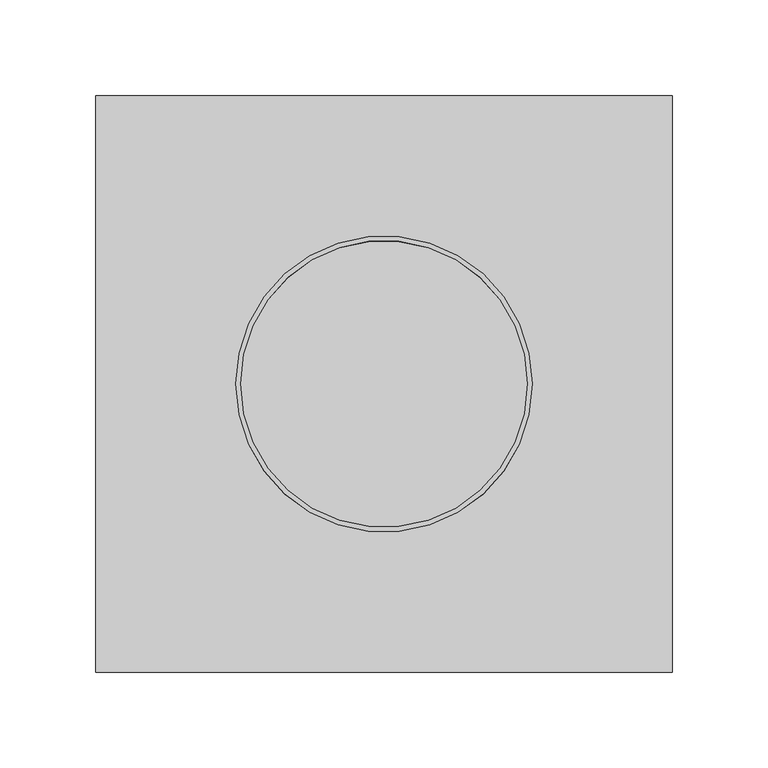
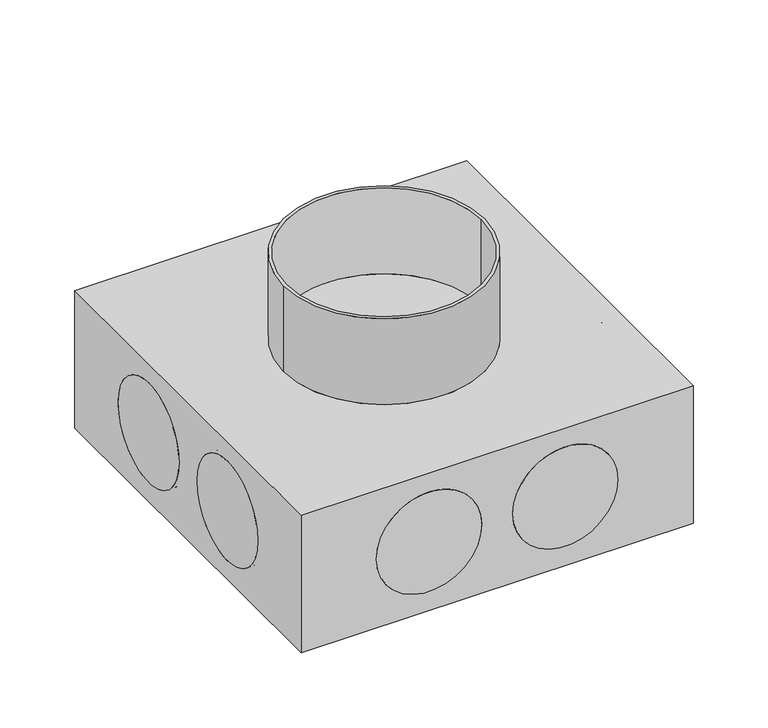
"""IFC4 building model written with IfcOpenShell, lengths in millimetres: duct fitting geometry, NLRS_57_DUF_UN_air extraction plenum square 300x300_M&G : 225#8 (H=110)."""

from ifc_helpers import new_model, si_unit, point, frame, frame_2d, origin, origin_with_axes, place, context, project, spatial, polyline, circle_curve, trimmed, segment, composite_curve, outline, extrude, source, transform, mapped, element, save
from ifc_brep_helpers import plane_surface, cylinder_surface, revolved_surface, advanced_brep


def duct_fitting_265251c9(model_context):
    return source(origin(), model_context, "Body", "SolidModel", [
        extrude(outline(composite_curve([segment(trimmed(circle_curve(frame_2d((56.0, -52.5)), 40.5), [point((56.0, -93.0))], [point((56.0, -12.0))], False, "CARTESIAN"), True, "CONTINUOUS"), segment(trimmed(circle_curve(frame_2d((56.0, -52.5)), 40.5), [point((56.0, -12.0))], [point((56.0, -93.0))], False, "CARTESIAN"), True, "CONTINUOUS")], self_intersect=False)), frame((0.0, 146.0, 0.0), z_axis=(0.0, 1.0, 0.0), x_axis=(0.0, 0.0, 1.0)), (0.0, 0.0, 1.0), 5.0),
        extrude(outline(composite_curve([segment(trimmed(circle_curve(frame_2d((56.0, 52.5)), 40.5), [point((56.0, 12.0))], [point((56.0, 93.0))], False, "CARTESIAN"), True, "CONTINUOUS"), segment(trimmed(circle_curve(frame_2d((56.0, 52.5)), 40.5), [point((56.0, 93.0))], [point((56.0, 12.0))], False, "CARTESIAN"), True, "CONTINUOUS")], self_intersect=False)), frame((0.0, 146.0, 0.0), z_axis=(0.0, 1.0, 0.0), x_axis=(0.0, 0.0, 1.0)), (0.0, 0.0, 1.0), 5.0),
        extrude(outline(composite_curve([segment(trimmed(circle_curve(frame_2d((52.5, 56.0)), 40.5), [point((12.0, 56.0))], [point((93.0, 56.0))], False, "CARTESIAN"), True, "CONTINUOUS"), segment(trimmed(circle_curve(frame_2d((52.5, 56.0)), 40.5), [point((93.0, 56.0))], [point((12.0, 56.0))], False, "CARTESIAN"), True, "CONTINUOUS")], self_intersect=False)), frame((146.0, 0.0, 0.0), z_axis=(1.0, 0.0, 0.0), x_axis=(0.0, 1.0, 0.0)), (0.0, 0.0, 1.0), 5.0),
        extrude(outline(composite_curve([segment(trimmed(circle_curve(frame_2d((-52.5, 56.0)), 40.5), [point((-93.0, 56.0))], [point((-12.0, 56.0))], False, "CARTESIAN"), True, "CONTINUOUS"), segment(trimmed(circle_curve(frame_2d((-52.5, 56.0)), 40.5), [point((-12.0, 56.0))], [point((-93.0, 56.0))], False, "CARTESIAN"), True, "CONTINUOUS")], self_intersect=False)), frame((146.0, 0.0, 0.0), z_axis=(1.0, 0.0, 0.0), x_axis=(0.0, 1.0, 0.0)), (0.0, 0.0, 1.0), 5.0),
        extrude(outline(composite_curve([segment(trimmed(circle_curve(frame_2d((56.0, -52.5)), 40.5), [point((56.0, -93.0))], [point((56.0, -12.0))], False, "CARTESIAN"), True, "CONTINUOUS"), segment(trimmed(circle_curve(frame_2d((56.0, -52.5)), 40.5), [point((56.0, -12.0))], [point((56.0, -93.0))], False, "CARTESIAN"), True, "CONTINUOUS")], self_intersect=False)), frame((0.0, -151.0, 0.0), z_axis=(0.0, 1.0, 0.0), x_axis=(0.0, 0.0, 1.0)), (0.0, 0.0, 1.0), 5.0),
        extrude(outline(composite_curve([segment(trimmed(circle_curve(frame_2d((56.0, 52.5)), 40.5), [point((56.0, 12.0))], [point((56.0, 93.0))], False, "CARTESIAN"), True, "CONTINUOUS"), segment(trimmed(circle_curve(frame_2d((56.0, 52.5)), 40.5), [point((56.0, 93.0))], [point((56.0, 12.0))], False, "CARTESIAN"), True, "CONTINUOUS")], self_intersect=False)), frame((0.0, -151.0, 0.0), z_axis=(0.0, 1.0, 0.0), x_axis=(0.0, 0.0, 1.0)), (0.0, 0.0, 1.0), 5.0),
        extrude(outline(composite_curve([segment(trimmed(circle_curve(frame_2d((52.5, 56.0)), 40.5), [point((12.0, 56.0))], [point((93.0, 56.0))], False, "CARTESIAN"), True, "CONTINUOUS"), segment(trimmed(circle_curve(frame_2d((52.5, 56.0)), 40.5), [point((93.0, 56.0))], [point((12.0, 56.0))], False, "CARTESIAN"), True, "CONTINUOUS")], self_intersect=False)), frame((-151.0, 0.0, 0.0), z_axis=(1.0, 0.0, 0.0), x_axis=(0.0, 1.0, 0.0)), (0.0, 0.0, 1.0), 5.0),
        extrude(outline(composite_curve([segment(trimmed(circle_curve(frame_2d((-52.5, 56.0)), 40.5), [point((-93.0, 56.0))], [point((-12.0, 56.0))], False, "CARTESIAN"), True, "CONTINUOUS"), segment(trimmed(circle_curve(frame_2d((-52.5, 56.0)), 40.5), [point((-12.0, 56.0))], [point((-93.0, 56.0))], False, "CARTESIAN"), True, "CONTINUOUS")], self_intersect=False)), frame((-151.0, 0.0, 0.0), z_axis=(1.0, 0.0, 0.0), x_axis=(0.0, 1.0, 0.0)), (0.0, 0.0, 1.0), 5.0),
        advanced_brep(
        [(151.0, 151.0, 112.0), (-151.0, 151.0, 112.0), (-151.0, -151.0, 112.0), (151.0, -151.0, 112.0), (-77.5, 0.0, 112.0), (77.5, 0.0, 112.0), (-75.0, 0.0, 112.0), (75.0, 0.0, 112.0), (151.0, 151.0, 0.0), (151.0, -151.0, 0.0), (-151.0, -151.0, 0.0), (-151.0, 151.0, 0.0), (-93.0, 151.0, 56.0), (-12.0, 151.0, 56.0), (12.0, 151.0, 56.0), (93.0, 151.0, 56.0), (-151.0, 93.0, 56.0), (-151.0, 12.0, 56.0), (-151.0, -12.0, 56.0), (-151.0, -93.0, 56.0), (-12.0, -151.0, 56.0), (-93.0, -151.0, 56.0), (93.0, -151.0, 56.0), (12.0, -151.0, 56.0), (151.0, 12.0, 56.0), (151.0, 93.0, 56.0), (151.0, -93.0, 56.0), (151.0, -12.0, 56.0), (-77.5, 0.0, 182.0), (77.5, 0.0, 182.0), (-75.0, 0.0, 182.0), (75.0, 0.0, 182.0), (-12.0, -145.0, 56.0), (-93.0, -145.0, 56.0), (93.0, -145.0, 56.0), (12.0, -145.0, 56.0), (-145.0, 93.0, 56.0), (-145.0, 12.0, 56.0), (-145.0, -12.0, 56.0), (-145.0, -93.0, 56.0), (145.0, 12.0, 56.0), (145.0, 93.0, 56.0), (145.0, -93.0, 56.0), (145.0, -12.0, 56.0), (-93.0, 145.0, 56.0), (-12.0, 145.0, 56.0), (12.0, 145.0, 56.0), (93.0, 145.0, 56.0)],
        [
            (0, 1),
            (1, 2),
            (2, 3),
            (3, 0),
            (4, 5, circle_curve(frame((0.0, 0.0, 112.0), z_axis=(0.0, 0.0, -1.0), x_axis=(1.0, 0.0, 0.0)), 77.5)),
            (5, 4, circle_curve(frame((0.0, 0.0, 112.0), z_axis=(0.0, 0.0, -1.0), x_axis=(1.0, 0.0, 0.0)), 77.5)),
            (6, 7, circle_curve(frame((0.0, 0.0, 112.0), z_axis=(0.0, 0.0, 1.0), x_axis=(1.0, 0.0, 0.0)), 75.0)),
            (7, 6, circle_curve(frame((0.0, 0.0, 112.0), z_axis=(0.0, 0.0, 1.0), x_axis=(1.0, 0.0, 0.0)), 75.0)),
            (8, 9),
            (9, 10),
            (10, 11),
            (11, 8),
            (0, 8),
            (11, 1),
            (12, 13, circle_curve(frame((-52.5, 151.0, 56.0), z_axis=(0.0, -1.0, 0.0), x_axis=(1.0, 0.0, 0.0)), 40.5)),
            (13, 12, circle_curve(frame((-52.5, 151.0, 56.0), z_axis=(0.0, -1.0, 0.0), x_axis=(1.0, 0.0, 0.0)), 40.5)),
            (14, 15, circle_curve(frame((52.5, 151.0, 56.0), z_axis=(0.0, -1.0, 0.0), x_axis=(1.0, 0.0, 0.0)), 40.5)),
            (15, 14, circle_curve(frame((52.5, 151.0, 56.0), z_axis=(0.0, -1.0, 0.0), x_axis=(1.0, 0.0, 0.0)), 40.5)),
            (10, 2),
            (16, 17, circle_curve(frame((-151.0, 52.5, 56.0), z_axis=(1.0, 0.0, 0.0), x_axis=(0.0, 1.0, 0.0)), 40.5)),
            (17, 16, circle_curve(frame((-151.0, 52.5, 56.0), z_axis=(1.0, 0.0, 0.0), x_axis=(0.0, 1.0, 0.0)), 40.5)),
            (18, 19, circle_curve(frame((-151.0, -52.5, 56.0), z_axis=(1.0, 0.0, 0.0), x_axis=(0.0, 1.0, 0.0)), 40.5)),
            (19, 18, circle_curve(frame((-151.0, -52.5, 56.0), z_axis=(1.0, 0.0, 0.0), x_axis=(0.0, 1.0, 0.0)), 40.5)),
            (9, 3),
            (20, 21, circle_curve(frame((-52.5, -151.0, 56.0), z_axis=(0.0, 1.0, 0.0), x_axis=(1.0, 0.0, 0.0)), 40.5)),
            (21, 20, circle_curve(frame((-52.5, -151.0, 56.0), z_axis=(0.0, 1.0, 0.0), x_axis=(1.0, 0.0, 0.0)), 40.5)),
            (22, 23, circle_curve(frame((52.5, -151.0, 56.0), z_axis=(0.0, 1.0, 0.0), x_axis=(1.0, 0.0, 0.0)), 40.5)),
            (23, 22, circle_curve(frame((52.5, -151.0, 56.0), z_axis=(0.0, 1.0, 0.0), x_axis=(1.0, 0.0, 0.0)), 40.5)),
            (24, 25, circle_curve(frame((151.0, 52.5, 56.0), z_axis=(-1.0, 0.0, 0.0), x_axis=(0.0, 1.0, 0.0)), 40.5)),
            (25, 24, circle_curve(frame((151.0, 52.5, 56.0), z_axis=(-1.0, 0.0, 0.0), x_axis=(0.0, 1.0, 0.0)), 40.5)),
            (26, 27, circle_curve(frame((151.0, -52.5, 56.0), z_axis=(-1.0, 0.0, 0.0), x_axis=(0.0, 1.0, 0.0)), 40.5)),
            (27, 26, circle_curve(frame((151.0, -52.5, 56.0), z_axis=(-1.0, 0.0, 0.0), x_axis=(0.0, 1.0, 0.0)), 40.5)),
            (28, 29, circle_curve(frame((0.0, 0.0, 182.0), z_axis=(0.0, 0.0, 1.0), x_axis=(1.0, 0.0, 0.0)), 77.5)),
            (29, 28, circle_curve(frame((0.0, 0.0, 182.0), z_axis=(0.0, 0.0, 1.0), x_axis=(1.0, 0.0, 0.0)), 77.5)),
            (30, 31, circle_curve(frame((0.0, 0.0, 182.0), z_axis=(0.0, 0.0, -1.0), x_axis=(1.0, 0.0, 0.0)), 75.0)),
            (31, 30, circle_curve(frame((0.0, 0.0, 182.0), z_axis=(0.0, 0.0, -1.0), x_axis=(1.0, 0.0, 0.0)), 75.0)),
            (31, 7),
            (6, 30),
            (29, 5),
            (4, 28),
            (32, 33, circle_curve(frame((-52.5, -145.0, 56.0), z_axis=(0.0, 1.0, 0.0), x_axis=(1.0, 0.0, 0.0)), 40.5)),
            (33, 21),
            (20, 32),
            (33, 32, circle_curve(frame((-52.5, -145.0, 56.0), z_axis=(0.0, 1.0, 0.0), x_axis=(1.0, 0.0, 0.0)), 40.5)),
            (34, 35, circle_curve(frame((52.5, -145.0, 56.0), z_axis=(0.0, 1.0, 0.0), x_axis=(1.0, 0.0, 0.0)), 40.5)),
            (35, 23),
            (22, 34),
            (35, 34, circle_curve(frame((52.5, -145.0, 56.0), z_axis=(0.0, 1.0, 0.0), x_axis=(1.0, 0.0, 0.0)), 40.5)),
            (36, 37, circle_curve(frame((-145.0, 52.5, 56.0), z_axis=(1.0, 0.0, 0.0), x_axis=(0.0, 1.0, 0.0)), 40.5)),
            (37, 17),
            (16, 36),
            (37, 36, circle_curve(frame((-145.0, 52.5, 56.0), z_axis=(1.0, 0.0, 0.0), x_axis=(0.0, 1.0, 0.0)), 40.5)),
            (38, 39, circle_curve(frame((-145.0, -52.5, 56.0), z_axis=(1.0, 0.0, 0.0), x_axis=(0.0, 1.0, 0.0)), 40.5)),
            (39, 19),
            (18, 38),
            (39, 38, circle_curve(frame((-145.0, -52.5, 56.0), z_axis=(1.0, 0.0, 0.0), x_axis=(0.0, 1.0, 0.0)), 40.5)),
            (40, 41, circle_curve(frame((145.0, 52.5, 56.0), z_axis=(1.0, 0.0, 0.0), x_axis=(0.0, 1.0, 0.0)), 40.5)),
            (41, 40, circle_curve(frame((145.0, 52.5, 56.0), z_axis=(1.0, 0.0, 0.0), x_axis=(0.0, 1.0, 0.0)), 40.5)),
            (42, 43, circle_curve(frame((145.0, -52.5, 56.0), z_axis=(1.0, 0.0, 0.0), x_axis=(0.0, 1.0, 0.0)), 40.5)),
            (43, 42, circle_curve(frame((145.0, -52.5, 56.0), z_axis=(1.0, 0.0, 0.0), x_axis=(0.0, 1.0, 0.0)), 40.5)),
            (41, 25),
            (24, 40),
            (43, 27),
            (26, 42),
            (44, 45, circle_curve(frame((-52.5, 145.0, 56.0), z_axis=(0.0, 1.0, 0.0), x_axis=(1.0, 0.0, 0.0)), 40.5)),
            (45, 44, circle_curve(frame((-52.5, 145.0, 56.0), z_axis=(0.0, 1.0, 0.0), x_axis=(1.0, 0.0, 0.0)), 40.5)),
            (46, 47, circle_curve(frame((52.5, 145.0, 56.0), z_axis=(0.0, 1.0, 0.0), x_axis=(1.0, 0.0, 0.0)), 40.5)),
            (47, 46, circle_curve(frame((52.5, 145.0, 56.0), z_axis=(0.0, 1.0, 0.0), x_axis=(1.0, 0.0, 0.0)), 40.5)),
            (45, 13),
            (12, 44),
            (47, 15),
            (14, 46),
        ],
        [
            plane_surface(frame((-151.0, 151.0, 112.0), z_axis=(0.0, 0.0, 1.0), x_axis=(-1.0, 0.0, 0.0))),
            plane_surface(frame((-151.0, 151.0, 0.0), z_axis=(0.0, 0.0, -1.0), x_axis=(1.0, 0.0, 0.0))),
            plane_surface(frame((151.0, 151.0, 112.0), z_axis=(0.0, 1.0, 0.0), x_axis=(0.0, 0.0, -1.0))),
            plane_surface(frame((-151.0, 151.0, 112.0), z_axis=(-1.0, 0.0, 0.0), x_axis=(0.0, 0.0, -1.0))),
            plane_surface(frame((-151.0, -151.0, 112.0), z_axis=(0.0, -1.0, 0.0), x_axis=(0.0, 0.0, -1.0))),
            plane_surface(frame((151.0, -151.0, 112.0), z_axis=(1.0, 0.0, 0.0), x_axis=(0.0, 0.0, -1.0))),
            plane_surface(frame((75.0, 0.0, 182.0), z_axis=(0.0, 0.0, 1.0), x_axis=(0.0, -1.0, 0.0))),
            revolved_surface(polyline([(75.0, 0.0, 112.0), (75.0, 0.0, 182.0)]), (0.0, 0.0, 112.0), (0.0, 0.0, -1.0)),
            cylinder_surface(origin_with_axes(), 77.5),
            revolved_surface(polyline([(-12.0, -151.0, 56.0), (-12.0, -145.0, 56.0)]), (-52.5, -145.0, 56.0), (0.0, -1.0, 0.0)),
            revolved_surface(polyline([(93.0, -151.0, 56.0), (93.0, -145.0, 56.0)]), (52.5, 0.0, 56.0), (0.0, -1.0, 0.0)),
            revolved_surface(polyline([(-145.0, 93.0, 56.0), (-151.0, 93.0, 56.0)]), (-151.0, 52.5, 56.0), (1.0, 0.0, 0.0)),
            revolved_surface(polyline([(-145.0, -12.0, 56.0), (-151.0, -12.0, 56.0)]), (0.0, -52.5, 56.0), (1.0, 0.0, 0.0)),
            plane_surface(frame((-12.0, -145.0, 56.0), z_axis=(0.0, -1.0, 0.0), x_axis=(0.0, 0.0, -1.0))),
            plane_surface(frame((-145.0, 93.0, 56.0), z_axis=(-1.0, 0.0, 0.0), x_axis=(0.0, 0.0, 1.0))),
            plane_surface(frame((145.0, 93.0, 56.0), z_axis=(1.0, 0.0, 0.0), x_axis=(0.0, 0.0, -1.0))),
            revolved_surface(polyline([(151.0, 93.0, 56.0), (145.0, 93.0, 56.0)]), (145.0, 52.5, 56.0), (1.0, 0.0, 0.0)),
            revolved_surface(polyline([(151.0, -12.0, 56.0), (145.0, -12.0, 56.0)]), (0.0, -52.5, 56.0), (1.0, 0.0, 0.0)),
            plane_surface(frame((-12.0, 145.0, 56.0), z_axis=(0.0, 1.0, 0.0), x_axis=(0.0, 0.0, 1.0))),
            revolved_surface(polyline([(-12.0, 145.0, 56.0), (-12.0, 151.0, 56.0)]), (-52.5, 151.0, 56.0), (0.0, -1.0, 0.0)),
            revolved_surface(polyline([(93.0, 145.0, 56.0), (93.0, 151.0, 56.0)]), (52.5, 0.0, 56.0), (0.0, -1.0, 0.0)),
        ],
        [
            (0, [[1, 2, 3, 4], [5, 6]]),
            (0, [[7, 8]]),
            (1, [[9, 10, 11, 12]]),
            (2, [[-1, 13, -12, 14], [15, 16], [17, 18]]),
            (3, [[-2, -14, -11, 19], [20, 21], [22, 23]]),
            (4, [[-3, -19, -10, 24], [25, 26], [27, 28]]),
            (5, [[-4, -24, -9, -13], [29, 30], [31, 32]]),
            (6, [[33, 34], [35, 36]]),
            (7, [[-36, 37, -7, 38]]),
            (7, [[-35, -38, -8, -37]]),
            (8, [[-34, 39, -5, 40]]),
            (8, [[-33, -40, -6, -39]]),
            (9, [[41, 42, -25, 43]]),
            (9, [[44, -43, -26, -42]]),
            (10, [[45, 46, -27, 47]]),
            (10, [[48, -47, -28, -46]]),
            (11, [[49, 50, -20, 51]]),
            (11, [[52, -51, -21, -50]]),
            (12, [[53, 54, -22, 55]]),
            (12, [[56, -55, -23, -54]]),
            (13, [[-41, -44]]),
            (13, [[-45, -48]]),
            (14, [[-49, -52]]),
            (14, [[-53, -56]]),
            (15, [[57, 58]]),
            (15, [[59, 60]]),
            (16, [[-58, 61, -29, 62]]),
            (16, [[-57, -62, -30, -61]]),
            (17, [[-60, 63, -31, 64]]),
            (17, [[-59, -64, -32, -63]]),
            (18, [[65, 66]]),
            (18, [[67, 68]]),
            (19, [[-66, 69, -15, 70]]),
            (19, [[-65, -70, -16, -69]]),
            (20, [[-68, 71, -17, 72]]),
            (20, [[-67, -72, -18, -71]]),
        ],
    ),
    ])


if __name__ == "__main__":
    model = new_model("IFC4")
    model_context = context("Model", 3, world=origin())
    ifc_project = project(units=[si_unit("LENGTHUNIT", "METRE", prefix="MILLI")], contexts=[model_context])
    site = spatial("IfcSite", under=ifc_project)
    building = spatial("IfcBuilding", under=site)
    placement = place(None, origin())
    duct_fitting_shape = duct_fitting_265251c9(model_context)
    element("IfcDuctFitting", 1, ObjectType="NLRS_57_DUF_UN_air extraction plenum square 300x300_M&G : 225#8 (H=110)", at=placement, inside=building, context=model_context, shape_type="MappedRepresentation", body=[
        mapped(duct_fitting_shape, transform((0.0, 0.0, 0.0), x_axis=(1.0, 0.0, 0.0), y_axis=(0.0, 1.0, 0.0), z_axis=(0.0, 0.0, 1.0))),
    ])
    save(model, "model.ifc")
